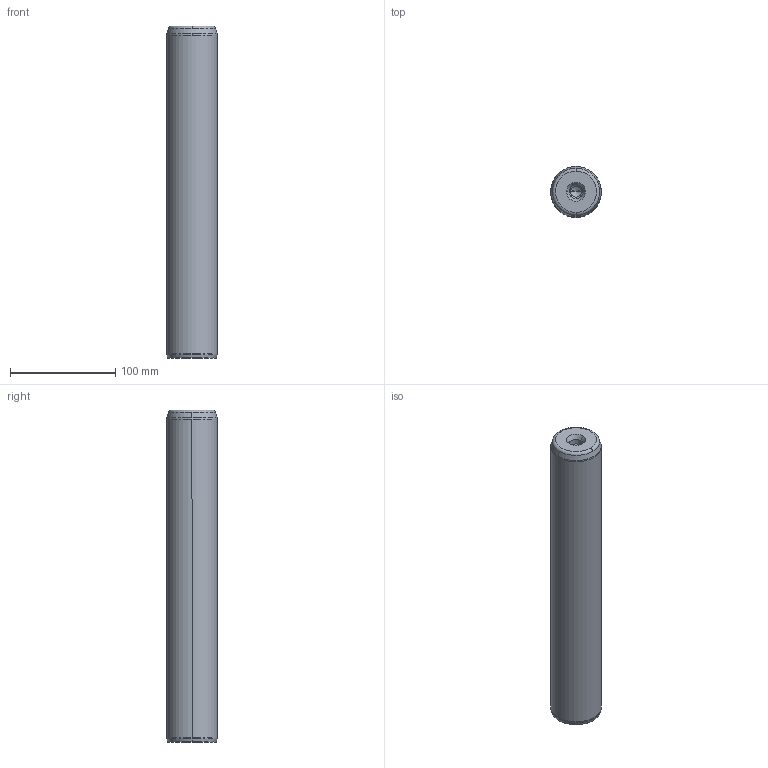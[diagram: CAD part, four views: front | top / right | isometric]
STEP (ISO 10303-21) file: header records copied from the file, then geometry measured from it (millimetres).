
FILE_DESCRIPTION((''),'2;1');
FILE_NAME('P10_048_315.stp','2008-12-23T16:09:02',(''),(''),'Mechanical Desktop 2009','Mechanical Desktop 2009',', , ');
FILE_SCHEMA(('CONFIG_CONTROL_DESIGN'));
Length unit declared in the file: millimetre
Products named in the file (5): Product; ProductAA; blmdl1; ProductA; blmdl1A
Assembly tree (2 placements, depth 3):
  Product
    ProductAA
      blmdl1
  ProductA
  blmdl1A
Bounding box: 48 x 48 x 315 mm (x, y, z)
Volume: 564444.1 mm3; surface area: 51777.7 mm2
Topology: 1 solids, 1 shells, 26 faces, 66 edges, 41 vertices
Faces by surface type: cone 10, torus 8, cylinder 6, plane 2
Entity records: 1012 total; most frequent: DIRECTION 170, CARTESIAN_POINT 134, ORIENTED_EDGE 128, AXIS2_PLACEMENT_3D 77, EDGE_CURVE 64, CIRCLE 48, VERTEX_POINT 41, EDGE_LOOP 27
